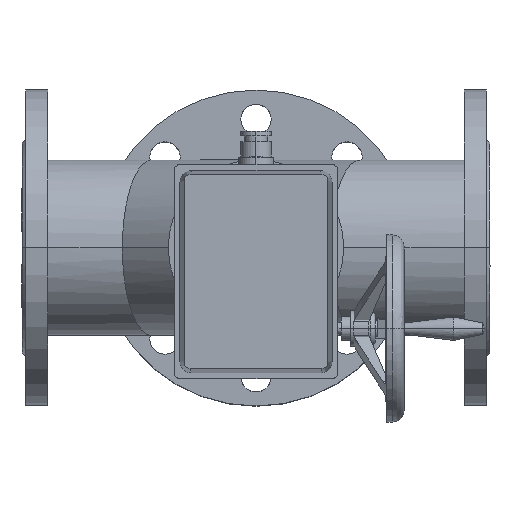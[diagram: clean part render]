
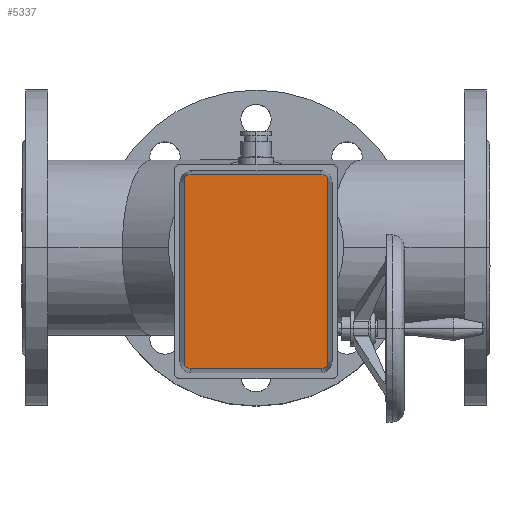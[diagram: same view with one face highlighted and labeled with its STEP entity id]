
A CAD part, top view. The second image highlights one B-rep face of the part: STEP entity #5337.
In plain terms, the highlighted planar face has unit normal (0, 0, 1).
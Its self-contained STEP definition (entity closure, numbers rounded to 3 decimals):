
#362=LINE('',#9363,#636);
#363=LINE('',#9367,#637);
#364=LINE('',#9371,#638);
#365=LINE('',#9375,#639);
#636=VECTOR('',#7278,304.8);
#637=VECTOR('',#7281,304.8);
#638=VECTOR('',#7284,304.8);
#639=VECTOR('',#7287,304.8);
#1209=FACE_OUTER_BOUND('',#1604,.T.);
#1604=EDGE_LOOP('',(#4197,#4198,#4199,#4200,#4201,#4202,#4203,#4204));
#2011=CIRCLE('',#5946,5.);
#2012=CIRCLE('',#5947,5.);
#2013=CIRCLE('',#5948,5.);
#2014=CIRCLE('',#5949,5.);
#2447=VERTEX_POINT('',#9361);
#2448=VERTEX_POINT('',#9362);
#2449=VERTEX_POINT('',#9364);
#2450=VERTEX_POINT('',#9366);
#2451=VERTEX_POINT('',#9368);
#2452=VERTEX_POINT('',#9370);
#2453=VERTEX_POINT('',#9372);
#2454=VERTEX_POINT('',#9374);
#3049=EDGE_CURVE('',#2447,#2448,#362,.T.);
#3050=EDGE_CURVE('',#2448,#2449,#2011,.T.);
#3051=EDGE_CURVE('',#2449,#2450,#363,.T.);
#3052=EDGE_CURVE('',#2450,#2451,#2012,.T.);
#3053=EDGE_CURVE('',#2451,#2452,#364,.T.);
#3054=EDGE_CURVE('',#2452,#2453,#2013,.T.);
#3055=EDGE_CURVE('',#2453,#2454,#365,.T.);
#3056=EDGE_CURVE('',#2454,#2447,#2014,.T.);
#4197=ORIENTED_EDGE('',*,*,#3049,.T.);
#4198=ORIENTED_EDGE('',*,*,#3050,.T.);
#4199=ORIENTED_EDGE('',*,*,#3051,.T.);
#4200=ORIENTED_EDGE('',*,*,#3052,.T.);
#4201=ORIENTED_EDGE('',*,*,#3053,.T.);
#4202=ORIENTED_EDGE('',*,*,#3054,.T.);
#4203=ORIENTED_EDGE('',*,*,#3055,.T.);
#4204=ORIENTED_EDGE('',*,*,#3056,.T.);
#4775=PLANE('',#5945);
#5337=ADVANCED_FACE('',(#1209),#4775,.T.);
#5945=AXIS2_PLACEMENT_3D('',#9360,#7276,#7277);
#5946=AXIS2_PLACEMENT_3D('',#9365,#7279,#7280);
#5947=AXIS2_PLACEMENT_3D('',#9369,#7282,#7283);
#5948=AXIS2_PLACEMENT_3D('',#9373,#7285,#7286);
#5949=AXIS2_PLACEMENT_3D('',#9376,#7288,#7289);
#7276=DIRECTION('center_axis',(0.,0.,1.));
#7277=DIRECTION('ref_axis',(0.,-1.,0.));
#7278=DIRECTION('',(0.,-1.,0.));
#7279=DIRECTION('center_axis',(0.,0.,1.));
#7280=DIRECTION('ref_axis',(1.,0.,0.));
#7281=DIRECTION('',(1.,0.,0.));
#7282=DIRECTION('center_axis',(0.,0.,1.));
#7283=DIRECTION('ref_axis',(1.,0.,0.));
#7284=DIRECTION('',(0.,1.,0.));
#7285=DIRECTION('center_axis',(0.,0.,1.));
#7286=DIRECTION('ref_axis',(1.,0.,0.));
#7287=DIRECTION('',(-1.,0.,0.));
#7288=DIRECTION('center_axis',(0.,0.,1.));
#7289=DIRECTION('ref_axis',(1.,0.,0.));
#9360=CARTESIAN_POINT('Origin',(-21.469,0.,
528.));
#9361=CARTESIAN_POINT('',(-104.36,56.4,528.));
#9362=CARTESIAN_POINT('',(-104.36,-56.4,528.));
#9363=CARTESIAN_POINT('',(-104.36,-56.4,528.));
#9364=CARTESIAN_POINT('',(-99.36,-61.4,528.));
#9365=CARTESIAN_POINT('Origin',(-99.36,-56.4,528.));
#9366=CARTESIAN_POINT('',(56.421,-61.4,528.));
#9367=CARTESIAN_POINT('',(56.421,-61.4,528.));
#9368=CARTESIAN_POINT('',(61.421,-56.4,528.));
#9369=CARTESIAN_POINT('Origin',(56.421,-56.4,528.));
#9370=CARTESIAN_POINT('',(61.421,56.4,528.));
#9371=CARTESIAN_POINT('',(61.421,56.4,528.));
#9372=CARTESIAN_POINT('',(56.421,61.4,528.));
#9373=CARTESIAN_POINT('Origin',(56.421,56.4,528.));
#9374=CARTESIAN_POINT('',(-99.36,61.4,528.));
#9375=CARTESIAN_POINT('',(-99.36,61.4,528.));
#9376=CARTESIAN_POINT('Origin',(-99.36,56.4,528.));
